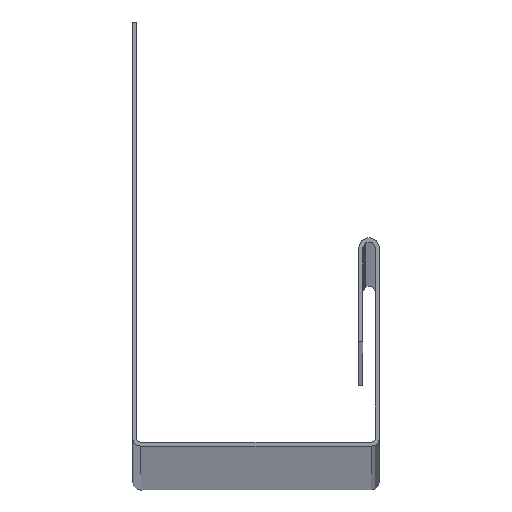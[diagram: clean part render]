
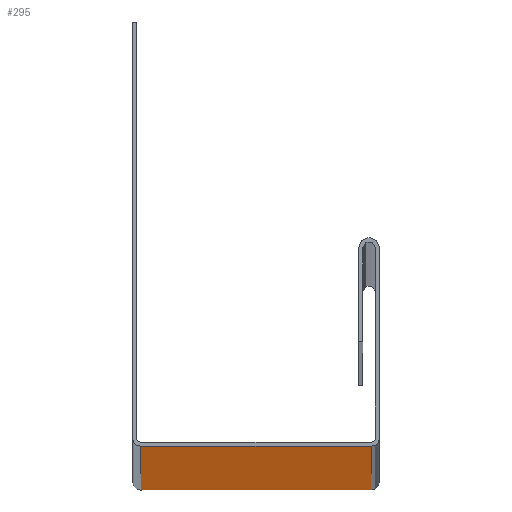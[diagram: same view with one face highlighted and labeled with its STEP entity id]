
A CAD part, top view. The second image highlights one B-rep face of the part: STEP entity #295.
In plain terms, the highlighted planar face has unit normal (0, -1, 0).
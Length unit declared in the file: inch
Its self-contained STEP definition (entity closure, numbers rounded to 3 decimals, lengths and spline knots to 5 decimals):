
#6 = DIRECTION ( 'NONE',  ( 0., 0., 1. ) ) ;
#17 = CARTESIAN_POINT ( 'NONE',  ( 0.03937, 0., -120. ) ) ;
#31 = EDGE_CURVE ( 'NONE', #260, #39, #341, .T. ) ;
#39 = VERTEX_POINT ( 'NONE', #142 ) ;
#50 = CARTESIAN_POINT ( 'NONE',  ( 1.14313, 0., -120. ) ) ;
#140 = CARTESIAN_POINT ( 'NONE',  ( 0.03937, 0., -120. ) ) ;
#142 = CARTESIAN_POINT ( 'NONE',  ( 1.14313, 0., 0. ) ) ;
#144 = FACE_OUTER_BOUND ( 'NONE', #149, .T. ) ;
#149 = EDGE_LOOP ( 'NONE', ( #280, #164, #225, #402 ) ) ;
#164 = ORIENTED_EDGE ( 'NONE', *, *, #536, .F. ) ;
#197 = EDGE_CURVE ( 'NONE', #273, #39, #333, .T. ) ;
#225 = ORIENTED_EDGE ( 'NONE', *, *, #570, .T. ) ;
#238 = CARTESIAN_POINT ( 'NONE',  ( 0.03937, 0., -120. ) ) ;
#260 = VERTEX_POINT ( 'NONE', #557 ) ;
#272 = LINE ( 'NONE', #17, #322 ) ;
#273 = VERTEX_POINT ( 'NONE', #50 ) ;
#278 = CARTESIAN_POINT ( 'NONE',  ( 1.14313, 0., -120. ) ) ;
#280 = ORIENTED_EDGE ( 'NONE', *, *, #31, .F. ) ;
#295 = ADVANCED_FACE ( 'NONE', ( #144 ), #713, .T. ) ;
#309 = DIRECTION ( 'NONE',  ( 1., 0., 0. ) ) ;
#322 = VECTOR ( 'NONE', #469, 39.37008 ) ;
#331 = DIRECTION ( 'NONE',  ( 0., 0., -1. ) ) ;
#333 = LINE ( 'NONE', #278, #559 ) ;
#341 = LINE ( 'NONE', #482, #391 ) ;
#387 = CARTESIAN_POINT ( 'NONE',  ( 0.03937, 0., -120. ) ) ;
#391 = VECTOR ( 'NONE', #309, 39.37008 ) ;
#402 = ORIENTED_EDGE ( 'NONE', *, *, #197, .T. ) ;
#443 = VECTOR ( 'NONE', #6, 39.37008 ) ;
#469 = DIRECTION ( 'NONE',  ( 1., 0., 0. ) ) ;
#482 = CARTESIAN_POINT ( 'NONE',  ( 0.03937, 0., 0. ) ) ;
#536 = EDGE_CURVE ( 'NONE', #611, #260, #676, .T. ) ;
#557 = CARTESIAN_POINT ( 'NONE',  ( 0.03937, 0., 0. ) ) ;
#559 = VECTOR ( 'NONE', #612, 39.37008 ) ;
#570 = EDGE_CURVE ( 'NONE', #611, #273, #272, .T. ) ;
#611 = VERTEX_POINT ( 'NONE', #238 ) ;
#612 = DIRECTION ( 'NONE',  ( 0., 0., 1. ) ) ;
#676 = LINE ( 'NONE', #140, #443 ) ;
#708 = DIRECTION ( 'NONE',  ( 0., -1., 0. ) ) ;
#713 = PLANE ( 'NONE',  #714 ) ;
#714 = AXIS2_PLACEMENT_3D ( 'NONE', #387, #708, #331 ) ;
